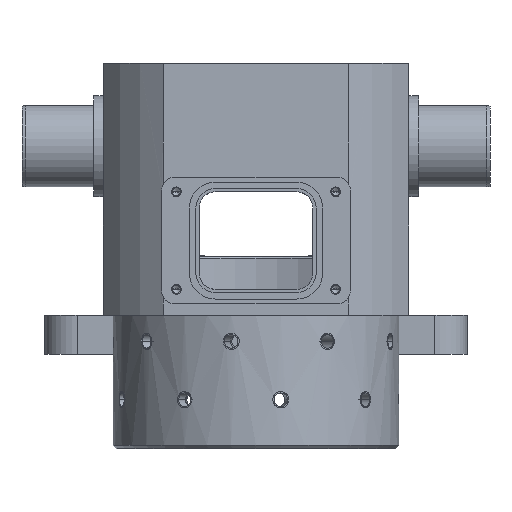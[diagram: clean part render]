
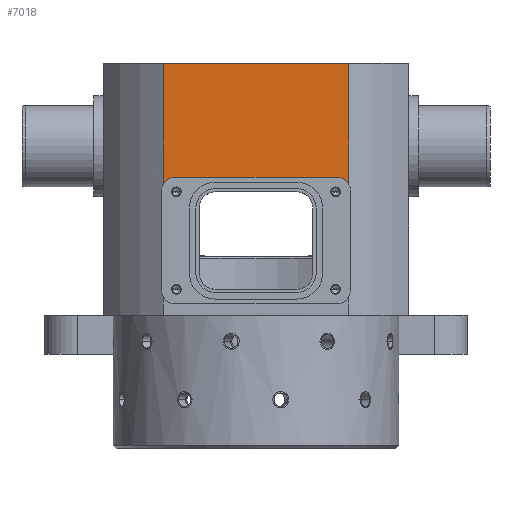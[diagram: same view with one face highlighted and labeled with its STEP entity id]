
A CAD part, front view. The second image highlights one B-rep face of the part: STEP entity #7018.
In plain terms, the highlighted planar face has unit normal (0, -1, 0).
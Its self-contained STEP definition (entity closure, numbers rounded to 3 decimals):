
#2548=CARTESIAN_POINT('',(25.,-47.,50.7));
#2549=DIRECTION('',(0.,1.,0.));
#2550=DIRECTION('',(0.,0.,1.));
#2551=AXIS2_PLACEMENT_3D('',#2548,#2549,#2550);
#2571=CARTESIAN_POINT('',(-28.566,-47.,52.513));
#2573=CARTESIAN_POINT('',(-25.,-47.,50.7));
#2574=DIRECTION('',(0.,1.,0.));
#2575=DIRECTION('',(-0.891,0.,0.453));
#2576=AXIS2_PLACEMENT_3D('',#2573,#2574,#2575);
#2632=DIRECTION('',(1.,0.,0.));
#2633=VECTOR('',#2632,50.);
#2634=CARTESIAN_POINT('',(-25.,-47.,54.7));
#2635=LINE('',#2634,#2633);
#2636=DIRECTION('',(0.,0.,1.));
#2637=VECTOR('',#2636,37.187);
#2638=CARTESIAN_POINT('',(-28.566,-47.,52.513));
#2639=LINE('',#2638,#2637);
#2640=DIRECTION('',(0.,0.,-1.));
#2641=VECTOR('',#2640,37.187);
#2642=CARTESIAN_POINT('',(28.566,-47.,89.7));
#2643=LINE('',#2642,#2641);
#2724=DIRECTION('',(1.,0.,0.));
#2725=VECTOR('',#2724,57.131);
#2726=CARTESIAN_POINT('',(-28.566,-47.,89.7));
#2727=LINE('',#2726,#2725);
#3836=CARTESIAN_POINT('',(-28.566,-47.,89.7));
#3838=VERTEX_POINT('',#3836);
#3839=CARTESIAN_POINT('',(28.566,-47.,89.7));
#3841=VERTEX_POINT('',#3839);
#3899=CARTESIAN_POINT('',(25.,-47.,54.7));
#3900=VERTEX_POINT('',#3899);
#3909=CARTESIAN_POINT('',(-25.,-47.,54.7));
#3910=VERTEX_POINT('',#3909);
#3927=CARTESIAN_POINT('',(28.566,-47.,52.513));
#3928=VERTEX_POINT('',#3927);
#3929=VERTEX_POINT('',#2571);
#7004=CARTESIAN_POINT('',(-47.,-47.,89.7));
#7005=DIRECTION('',(0.,-1.,0.));
#7006=DIRECTION('',(1.,0.,0.));
#7007=AXIS2_PLACEMENT_3D('',#7004,#7005,#7006);
#7008=PLANE('',#7007);
#7009=ORIENTED_EDGE('',*,*,#6871,.F.);
#7010=ORIENTED_EDGE('',*,*,#6886,.F.);
#7011=ORIENTED_EDGE('',*,*,#6989,.T.);
#7013=ORIENTED_EDGE('',*,*,#7012,.T.);
#7014=ORIENTED_EDGE('',*,*,#6975,.T.);
#7015=ORIENTED_EDGE('',*,*,#6853,.F.);
#7016=EDGE_LOOP('',(#7009,#7010,#7011,#7013,#7014,#7015));
#7017=FACE_OUTER_BOUND('',#7016,.F.);
#7018=ADVANCED_FACE('',(#7017),#7008,.T.);
#2552=CIRCLE('',#2551,4.);
#2577=CIRCLE('',#2576,4.);
#6853=EDGE_CURVE('',#3900,#3928,#2552,.T.);
#6871=EDGE_CURVE('',#3910,#3900,#2635,.T.);
#6886=EDGE_CURVE('',#3929,#3910,#2577,.T.);
#6975=EDGE_CURVE('',#3841,#3928,#2643,.T.);
#6989=EDGE_CURVE('',#3929,#3838,#2639,.T.);
#7012=EDGE_CURVE('',#3838,#3841,#2727,.T.);
